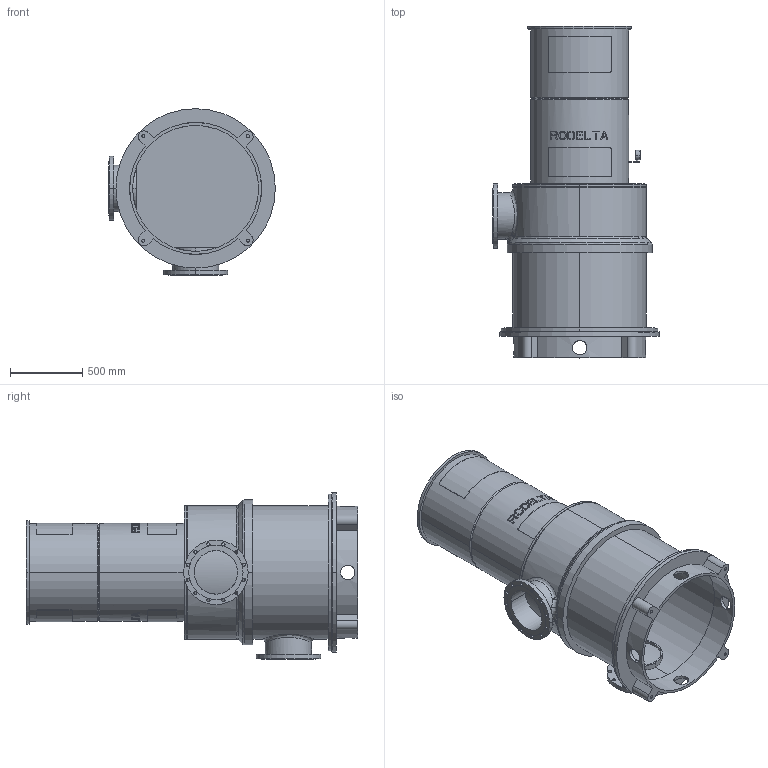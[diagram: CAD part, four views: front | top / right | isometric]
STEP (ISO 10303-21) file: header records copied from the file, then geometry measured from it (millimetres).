
FILE_DESCRIPTION((''),'2;1');
FILE_NAME('LS12_1TR_0GR_UPTO_90KW','2023-08-25T',('Lyritlocal'),(''),'PRO/ENGINEER BY PARAMETRIC TECHNOLOGY CORPORATION, 2016360','PRO/ENGINEER BY PARAMETRIC TECHNOLOGY CORPORATION, 2016360','');
FILE_SCHEMA(('CONFIG_CONTROL_DESIGN'));
Length unit declared in the file: millimetre
Products named in the file (1): LS12_1TR_0GR_UPTO_90KW
Bounding box: 1150 x 2290 x 1150 mm (x, y, z)
Volume: 119086125.7 mm3; surface area: 15391273.8 mm2
Topology: 3 solids, 7 shells, 559 faces, 1469 edges, 971 vertices
Faces by surface type: plane 335, cylinder 198, cone 13, bspline 10, torus 3
Entity records: 18696 total; most frequent: CARTESIAN_POINT 5090, ORIENTED_EDGE 2922, DIRECTION 2629, EDGE_CURVE 1469, AXIS2_PLACEMENT_3D 998, VERTEX_POINT 971, EDGE_LOOP 674, VECTOR 633
